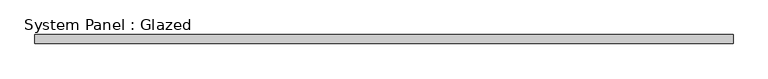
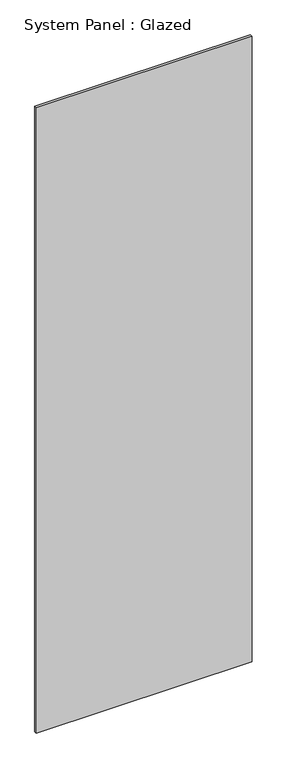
"""IFC4 building model written with IfcOpenShell, lengths in millimetres: plate geometry, System Panel : Glazed."""

import ifcopenshell
import ifcopenshell.guid

model = None  # the IFC model being written
_history = None  # IfcOwnerHistory: only IFC2X3 demands one
_inside = {}  # id of a spatial element -> (the spatial element, [elements in it])
_under = {}  # id of a project, library or spatial element -> (it, [spatial elements below it])
_declared = {}  # id of a project -> (the project, [libraries it declares])
_typed = {}  # id of a type object -> (the type object, [elements of that type])
_made_of = {}  # id of a material, layer set ... -> (it, [elements and type objects made of it])


def new_model(schema):
    """Start an empty IFC model of exactly this schema.

    Asked for "IFC4X3", IfcOpenShell would pick the latest addendum, in which some entities
    have other attributes; the version numbers below select the first issue.
    IFC2X3 requires an IfcOwnerHistory on every rooted entity: one is made here for all.
    """
    global model, _history
    if schema == "IFC4X3":
        model = ifcopenshell.file(schema_version=(4, 3, 0, 0))
    else:
        model = ifcopenshell.file(schema=schema)
    _inside.clear()
    _under.clear()
    _declared.clear()
    _typed.clear()
    _made_of.clear()
    _history = None
    if model.schema == "IFC2X3":
        org = make("IfcOrganization", Name="unknown")
        user = make(
            "IfcPersonAndOrganization",
            ThePerson=make("IfcPerson", FamilyName="unknown"),
            TheOrganization=org,
        )
        app = make(
            "IfcApplication",
            ApplicationDeveloper=org,
            Version="unknown",
            ApplicationFullName="unknown",
            ApplicationIdentifier="unknown",
        )
        _history = make(
            "IfcOwnerHistory",
            OwningUser=user,
            OwningApplication=app,
            ChangeAction="ADDED",
            CreationDate=0,
        )
    return model


def make(cls, **values):
    """One entity of the class cls with the attributes given. An attribute that is None is left unset."""
    return model.create_entity(
        cls, **{name: value for name, value in values.items() if value is not None}
    )


def rooted(cls, **values):
    """An entity with a GlobalId (a new one), such as an element, a storey or a relation."""
    return make(cls, GlobalId=ifcopenshell.guid.new(), OwnerHistory=_history, **values)


def si_unit(unit_type, name, prefix=None):
    """IfcSIUnit, for example si_unit("LENGTHUNIT", "METRE", prefix="MILLI")."""
    return make("IfcSIUnit", UnitType=unit_type, Prefix=prefix, Name=name)


def assignment(units):
    """IfcUnitAssignment: the units of a project."""
    return None if units is None else make("IfcUnitAssignment", Units=units)


def point(xyz):
    """IfcCartesianPoint."""
    return None if xyz is None else make("IfcCartesianPoint", Coordinates=xyz)


def direction(xyz):
    """IfcDirection."""
    return None if xyz is None else make("IfcDirection", DirectionRatios=xyz)


def frame(location, z_axis=None, x_axis=None):
    """IfcAxis2Placement3D, a coordinate frame: its origin and axes. An axis left out is left unset."""
    return make(
        "IfcAxis2Placement3D",
        Location=point(location),
        Axis=direction(z_axis),
        RefDirection=direction(x_axis),
    )


def origin():
    """The frame at (0, 0, 0) with its axes left unset."""
    return frame((0.0, 0.0, 0.0))


def origin_with_axes():
    """The frame at (0, 0, 0) with the z axis (0, 0, 1) and the x axis (1, 0, 0) written out."""
    return frame((0.0, 0.0, 0.0), z_axis=(0.0, 0.0, 1.0), x_axis=(1.0, 0.0, 0.0))


def place(relative_to, where):
    """IfcLocalPlacement: puts the frame where relative to a parent placement (None: the world)."""
    return make(
        "IfcLocalPlacement", PlacementRelTo=relative_to, RelativePlacement=where
    )


def context(
    kind, dimensions, precision=None, world=None, true_north=None, identifier=None
):
    """IfcGeometricRepresentationContext, for example the 3D "Model" context."""
    return make(
        "IfcGeometricRepresentationContext",
        ContextIdentifier=identifier,
        ContextType=kind,
        CoordinateSpaceDimension=dimensions,
        Precision=precision,
        WorldCoordinateSystem=world,
        TrueNorth=true_north,
    )


def project(units=None, contexts=None):
    """IfcProject with its units and contexts."""
    return rooted(
        "IfcProject",
        Name="project",
        RepresentationContexts=contexts,
        UnitsInContext=assignment(units),
    )


def spatial(cls, under=None, at=None, **own):
    """A site, building, storey or space (cls), placed at a placement, below another one or the project."""
    s = rooted(cls, ObjectPlacement=at, **own)
    if under is not None:
        _under.setdefault(under.id(), (under, []))[1].append(s)
    return s


def polyline(points):
    """IfcPolyline through the points."""
    return make("IfcPolyline", Points=[point(p) for p in points])


def outline(outer, holes=None, kind="AREA"):
    """IfcArbitraryClosedProfileDef: a profile drawn as a closed curve; with holes, ...WithVoids."""
    if holes is None:
        return make("IfcArbitraryClosedProfileDef", ProfileType=kind, OuterCurve=outer)
    return make(
        "IfcArbitraryProfileDefWithVoids",
        ProfileType=kind,
        OuterCurve=outer,
        InnerCurves=holes,
    )


def extrude(swept, where, along, depth):
    """IfcExtrudedAreaSolid: the profile swept, set in the frame where, extruded along a direction by depth."""
    return make(
        "IfcExtrudedAreaSolid",
        SweptArea=swept,
        Position=where,
        ExtrudedDirection=direction(along),
        Depth=depth,
    )


def shape(context_of_items, identifier, shape_type, items):
    """IfcShapeRepresentation: the items that make up one representation, for example the "Body"."""
    return make(
        "IfcShapeRepresentation",
        ContextOfItems=context_of_items,
        RepresentationIdentifier=identifier,
        RepresentationType=shape_type,
        Items=items,
    )


def source(mapping_origin, context_of_items, identifier, shape_type, items):
    """IfcRepresentationMap: a shape defined once, which mapped items show again and again."""
    return make(
        "IfcRepresentationMap",
        MappingOrigin=mapping_origin,
        MappedRepresentation=shape(context_of_items, identifier, shape_type, items),
    )


def transform(
    local_origin,
    x_axis=None,
    y_axis=None,
    z_axis=None,
    scale=None,
    scale2=None,
    scale3=None,
    uniform=True,
):
    """IfcCartesianTransformationOperator3D, or its non-uniform kind. x_axis, y_axis, z_axis: its Axis1, 2, 3."""
    if uniform:
        return make(
            "IfcCartesianTransformationOperator3D",
            Axis1=direction(x_axis),
            Axis2=direction(y_axis),
            LocalOrigin=point(local_origin),
            Scale=scale,
            Axis3=direction(z_axis),
        )
    return make(
        "IfcCartesianTransformationOperator3DnonUniform",
        Axis1=direction(x_axis),
        Axis2=direction(y_axis),
        LocalOrigin=point(local_origin),
        Scale=scale,
        Axis3=direction(z_axis),
        Scale2=scale2,
        Scale3=scale3,
    )


def mapped(mapping_source, mapping_target):
    """IfcMappedItem: shows the shape of a source again, moved by a transform."""
    return make(
        "IfcMappedItem", MappingSource=mapping_source, MappingTarget=mapping_target
    )


def made_of(thing, what):
    """Note that an element or type object is made of a material, layer set ...; save() writes the relation."""
    if what is not None:
        _made_of.setdefault(what.id(), (what, []))[1].append(thing)
    return thing


def element(
    cls,
    number,
    at=None,
    inside=None,
    cuts=None,
    type_object=None,
    material=None,
    context=None,
    identifier="Body",
    shape_type=None,
    held_by="IfcProductDefinitionShape",
    body=None,
    shapes=None,
    **own,
):
    """One element of the class cls, such as IfcWall. Its Tag is "e" and its number.

    at: its placement. inside: the storey or other place that contains it. cuts: it is an
    opening in that element (IfcRelVoidsElement). A single representation is given by context,
    identifier, shape_type and body (its items); several are given by shapes. held_by: the class
    of the entity that holds the representations. save() writes the other relations.
    """
    e = rooted(cls, Tag="e%d" % number, ObjectPlacement=at, **own)
    if body is not None:
        shapes = [shape(context, identifier, shape_type, body)]
    if shapes is not None:
        e.Representation = make(held_by, Representations=shapes)
    if inside is not None:
        _inside.setdefault(inside.id(), (inside, []))[1].append(e)
    if cuts is not None:
        rooted(
            "IfcRelVoidsElement", RelatingBuildingElement=cuts, RelatedOpeningElement=e
        )
    if type_object is not None:
        _typed.setdefault(type_object.id(), (type_object, []))[1].append(e)
    return made_of(e, material)


def aggregate(whole, parts):
    """IfcRelAggregates: a whole, such as a stair, and the parts it consists of."""
    return rooted("IfcRelAggregates", RelatingObject=whole, RelatedObjects=parts)


def save(model, path):
    """Write the relations noted so far, then the file.

    IfcRelAggregates (storeys below a building ...), IfcRelContainedInSpatialStructure (elements
    in a storey), IfcRelDefinesByType, IfcRelAssociatesMaterial and IfcRelDeclares: one each for
    every whole, place, type object, material and project.
    """
    for whole, parts in _under.values():
        aggregate(whole, parts)
    for where, things in _inside.values():
        rooted(
            "IfcRelContainedInSpatialStructure",
            RelatedElements=things,
            RelatingStructure=where,
        )
    for kind, things in _typed.values():
        rooted("IfcRelDefinesByType", RelatedObjects=things, RelatingType=kind)
    for what, things in _made_of.values():
        rooted("IfcRelAssociatesMaterial", RelatedObjects=things, RelatingMaterial=what)
    for by, libraries in _declared.values():
        rooted("IfcRelDeclares", RelatingContext=by, RelatedDefinitions=libraries)
    model.write(path)


def system_panel_glazed_6a2f852f(model_context):
    return source(origin(), model_context, "Body", "SweptSolid", [
        extrude(outline(polyline([(994.6095847, -44.45), (-994.6095847, -44.45), (-994.6095847, -19.05), (994.6095847, -19.05), (994.6095847, -44.45)])), origin_with_axes(), (0.0, 0.0, 1.0), 6096.0),
    ])


if __name__ == "__main__":
    model = new_model("IFC4")
    model_context = context("Model", 3, world=origin())
    ifc_project = project(units=[si_unit("LENGTHUNIT", "METRE", prefix="MILLI")], contexts=[model_context])
    site = spatial("IfcSite", under=ifc_project)
    building = spatial("IfcBuilding", under=site)
    placement = place(None, origin())
    system_panel_glazed_shape = system_panel_glazed_6a2f852f(model_context)
    element("IfcPlate", 1, ObjectType="System Panel : Glazed", at=placement, inside=building, context=model_context, shape_type="MappedRepresentation", body=[
        mapped(system_panel_glazed_shape, transform((0.0, 0.0, 0.0), x_axis=(1.0, 0.0, 0.0), y_axis=(0.0, 1.0, 0.0), z_axis=(0.0, 0.0, 1.0))),
    ])
    save(model, "model.ifc")
